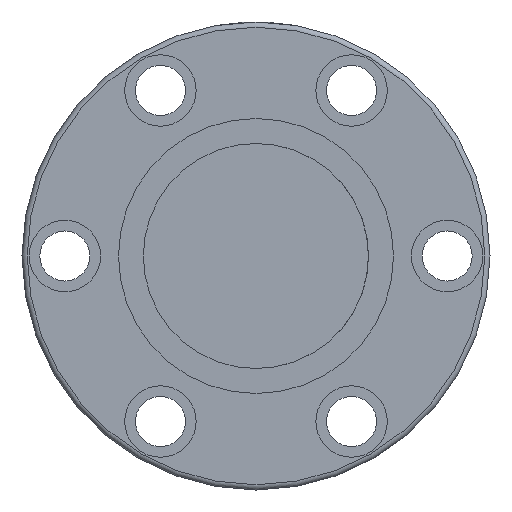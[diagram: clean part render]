
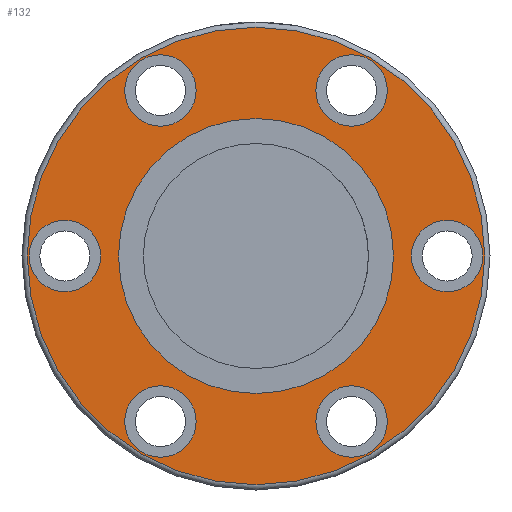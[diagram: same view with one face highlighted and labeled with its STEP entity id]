
A CAD part, front view. The second image highlights one B-rep face of the part: STEP entity #132.
In plain terms, the highlighted planar face has unit normal (0, -1, 0).
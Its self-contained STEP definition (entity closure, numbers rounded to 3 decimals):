
#112=PLANE('',#649);
#132=ADVANCED_FACE('',(#203,#204,#205,#206,#207,#208,#209,#210),#112,.F.);
#203=FACE_BOUND('',#298,.T.);
#204=FACE_BOUND('',#299,.T.);
#205=FACE_BOUND('',#300,.T.);
#206=FACE_BOUND('',#301,.T.);
#207=FACE_BOUND('',#302,.T.);
#208=FACE_BOUND('',#303,.T.);
#209=FACE_BOUND('',#304,.T.);
#210=FACE_BOUND('',#305,.T.);
#298=EDGE_LOOP('',(#396));
#299=EDGE_LOOP('',(#397));
#300=EDGE_LOOP('',(#398));
#301=EDGE_LOOP('',(#399));
#302=EDGE_LOOP('',(#400));
#303=EDGE_LOOP('',(#401));
#304=EDGE_LOOP('',(#402));
#305=EDGE_LOOP('',(#403));
#396=ORIENTED_EDGE('',*,*,#539,.T.);
#397=ORIENTED_EDGE('',*,*,#540,.T.);
#398=ORIENTED_EDGE('',*,*,#541,.T.);
#399=ORIENTED_EDGE('',*,*,#542,.T.);
#400=ORIENTED_EDGE('',*,*,#543,.T.);
#401=ORIENTED_EDGE('',*,*,#544,.T.);
#402=ORIENTED_EDGE('',*,*,#545,.T.);
#403=ORIENTED_EDGE('',*,*,#546,.F.);
#490=VERTEX_POINT('',#925);
#491=VERTEX_POINT('',#927);
#492=VERTEX_POINT('',#929);
#493=VERTEX_POINT('',#931);
#494=VERTEX_POINT('',#933);
#495=VERTEX_POINT('',#935);
#496=VERTEX_POINT('',#937);
#497=VERTEX_POINT('',#939);
#539=EDGE_CURVE('',#490,#490,#588,.T.);
#540=EDGE_CURVE('',#491,#491,#589,.T.);
#541=EDGE_CURVE('',#492,#492,#590,.T.);
#542=EDGE_CURVE('',#493,#493,#591,.T.);
#543=EDGE_CURVE('',#494,#494,#592,.T.);
#544=EDGE_CURVE('',#495,#495,#593,.T.);
#545=EDGE_CURVE('',#496,#496,#594,.T.);
#546=EDGE_CURVE('',#497,#497,#595,.T.);
#588=CIRCLE('',#641,10.);
#589=CIRCLE('',#642,10.);
#590=CIRCLE('',#643,10.);
#591=CIRCLE('',#644,10.);
#592=CIRCLE('',#645,10.);
#593=CIRCLE('',#646,10.);
#594=CIRCLE('',#647,64.033);
#595=CIRCLE('',#648,38.5);
#641=AXIS2_PLACEMENT_3D('',#924,#743,#744);
#642=AXIS2_PLACEMENT_3D('',#926,#745,#746);
#643=AXIS2_PLACEMENT_3D('',#928,#747,#748);
#644=AXIS2_PLACEMENT_3D('',#930,#749,#750);
#645=AXIS2_PLACEMENT_3D('',#932,#751,#752);
#646=AXIS2_PLACEMENT_3D('',#934,#753,#754);
#647=AXIS2_PLACEMENT_3D('',#936,#755,#756);
#648=AXIS2_PLACEMENT_3D('',#938,#757,#758);
#649=AXIS2_PLACEMENT_3D('',#940,#759,#760);
#743=DIRECTION('',(0.,1.,0.));
#744=DIRECTION('',(0.,0.,1.));
#745=DIRECTION('',(0.,1.,0.));
#746=DIRECTION('',(0.,0.,1.));
#747=DIRECTION('',(0.,1.,0.));
#748=DIRECTION('',(0.,0.,1.));
#749=DIRECTION('',(0.,1.,0.));
#750=DIRECTION('',(0.,0.,1.));
#751=DIRECTION('',(0.,1.,0.));
#752=DIRECTION('',(0.,0.,1.));
#753=DIRECTION('',(0.,1.,0.));
#754=DIRECTION('',(0.,0.,1.));
#755=DIRECTION('',(0.,-1.,0.));
#756=DIRECTION('',(0.,0.,1.));
#757=DIRECTION('',(0.,-1.,0.));
#758=DIRECTION('',(1.,0.,0.));
#759=DIRECTION('',(0.,1.,0.));
#760=DIRECTION('',(0.,0.,-1.));
#924=CARTESIAN_POINT('',(53.539,-46.461,0.));
#925=CARTESIAN_POINT('',(53.539,-46.461,10.));
#926=CARTESIAN_POINT('',(-53.461,-46.461,0.));
#927=CARTESIAN_POINT('',(-53.461,-46.461,10.));
#928=CARTESIAN_POINT('',(26.789,-46.461,-46.332));
#929=CARTESIAN_POINT('',(26.789,-46.461,-36.332));
#930=CARTESIAN_POINT('',(-26.711,-46.461,-46.332));
#931=CARTESIAN_POINT('',(-26.711,-46.461,-36.332));
#932=CARTESIAN_POINT('',(26.789,-46.461,46.332));
#933=CARTESIAN_POINT('',(26.789,-46.461,56.332));
#934=CARTESIAN_POINT('',(-26.711,-46.461,46.332));
#935=CARTESIAN_POINT('',(-26.711,-46.461,56.332));
#936=CARTESIAN_POINT('',(0.039,-46.461,0.));
#937=CARTESIAN_POINT('',(0.039,-46.461,64.033));
#938=CARTESIAN_POINT('',(0.039,-46.461,0.));
#939=CARTESIAN_POINT('',(38.539,-46.461,0.));
#940=CARTESIAN_POINT('',(0.039,-46.461,0.));
